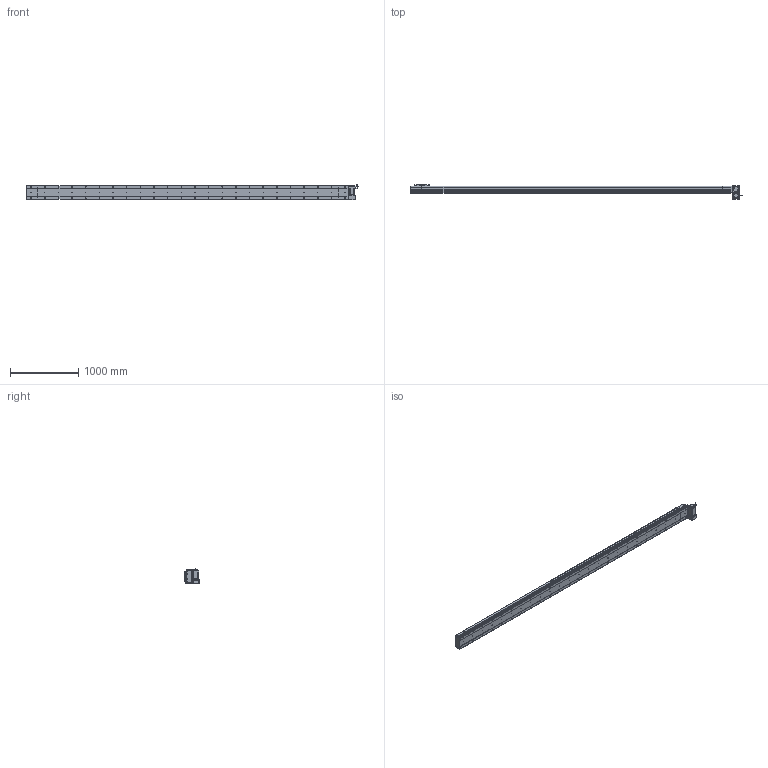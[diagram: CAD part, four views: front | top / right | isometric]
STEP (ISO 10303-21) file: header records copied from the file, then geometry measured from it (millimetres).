
FILE_DESCRIPTION (( 'STEP AP214' ), '1' );
FILE_NAME ('D20 CBH RU S4400.STEP', '2010-06-30T11:34:22', ( 'Conseil Régional Haute-Normandie' ), ( 'Conseil Régional Haute-Normandie' ), 'SwSTEP 2.0', 'SolidWorks 2010', '' );
FILE_SCHEMA (( 'AUTOMOTIVE_DESIGN' ));
Length unit declared in the file: millimetre
Products named in the file (31): Plaque de Bout Tail D20_Default; Couvercle_Default; Corp Tail D20_Default; vis M5 L15_Default; Plaque De Serrage D20_Default; Tail D20_Default; Glissiere_Default; Chariot D20_Default; Support Chariot D20_Default; D20 CBH RU S4400; Support moteur RU_Default; Plaque de Bout Head D20 RU_Default; Head RU_Default; Plaque De Serrage D20 RU_Default; Couvercle RU_Default; Corp Tail D20 RU_Default; Moteur motionking 90BLDC125A-640; Rondelle Cache D20 RU_Default; Cache Support Moteur RU_Default; codeur 90BLDC125-640; corps 90BLDC125A-640; avant 90BLDC125A-640; vis M5 L30_Default; Conecteur_Default; Conecteur2_Default; Corp D20 S4400_Default; vis M5 L47_Default; ecrou_Default; Couvercle S4400_Default; Corp S4400_Default
Assembly tree (66 placements, depth 4):
  D20 CBH RU S4400
    Chariot D20_Default
      vis M5 L15_Default  x8
      Chariot D20_Default
      Glissiere_Default
      Support Chariot D20_Default
    Tail D20_Default
      vis M5 L15_Default  x6
      Couvercle_Default
      Corp Tail D20_Default
      Plaque De Serrage D20_Default
      Plaque de Bout Tail D20_Default
    Head RU_Default
      vis M5 L30_Default  x4
      Rondelle Cache D20 RU_Default  x3
      vis M5 L47_Default  x4
      ecrou_Default  x4
      vis M5 L15_Default  x12
      Plaque de Bout Head D20 RU_Default
      Moteur motionking 90BLDC125A-640
        Conecteur2_Default
        Conecteur_Default
        codeur 90BLDC125-640
        avant 90BLDC125A-640
        corps 90BLDC125A-640
      Support moteur RU_Default
      Plaque De Serrage D20 RU_Default
      Corp Tail D20 RU_Default
      Couvercle RU_Default
      Cache Support Moteur RU_Default
    Corp D20 S4400_Default
      Couvercle S4400_Default
      Corp S4400_Default
Bounding box: 4864.45 x 209 x 229.7 mm (x, y, z)
Volume: 32085827 mm3; surface area: 6096034.8 mm2
Topology: 103 solids, 103 shells, 3877 faces, 9614 edges, 6250 vertices
Faces by surface type: plane 2132, bspline 806, cylinder 776, torus 91, cone 68, sphere 4
Entity records: 162286 total; most frequent: CARTESIAN_POINT 82779, ORIENTED_EDGE 15696, DIRECTION 12186, EDGE_CURVE 7848, VERTEX_POINT 5194, LINE 5008, VECTOR 5008, AXIS2_PLACEMENT_3D 3589
